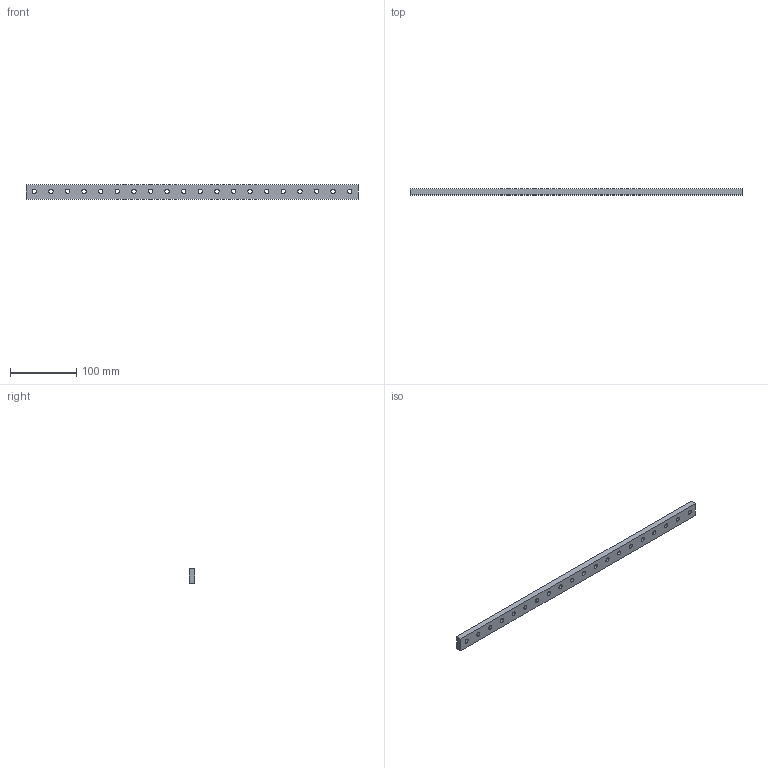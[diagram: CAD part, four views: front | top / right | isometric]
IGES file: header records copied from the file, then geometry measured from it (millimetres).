
Start section: START RECORD GO HERE.
Global section: file name: CF-GP-09-500.igs; native system: DASSAULT SYSTEMES CATIA V5 R20 - www.3ds.com; preprocessor: CATIA Version 5 Release 20 ; author: Utente; organization: NB04-ASUS; date: 20210221.170512; units: millimetre
Bounding box: 500 x 9 x 22 mm (x, y, z)
Surface area: 35059.1 mm2 (no closed solid volume)
Topology: 0 solids, 0 shells, 106 faces, 824 edges, 824 vertices
Faces by surface type: revolution 80, plane 26
